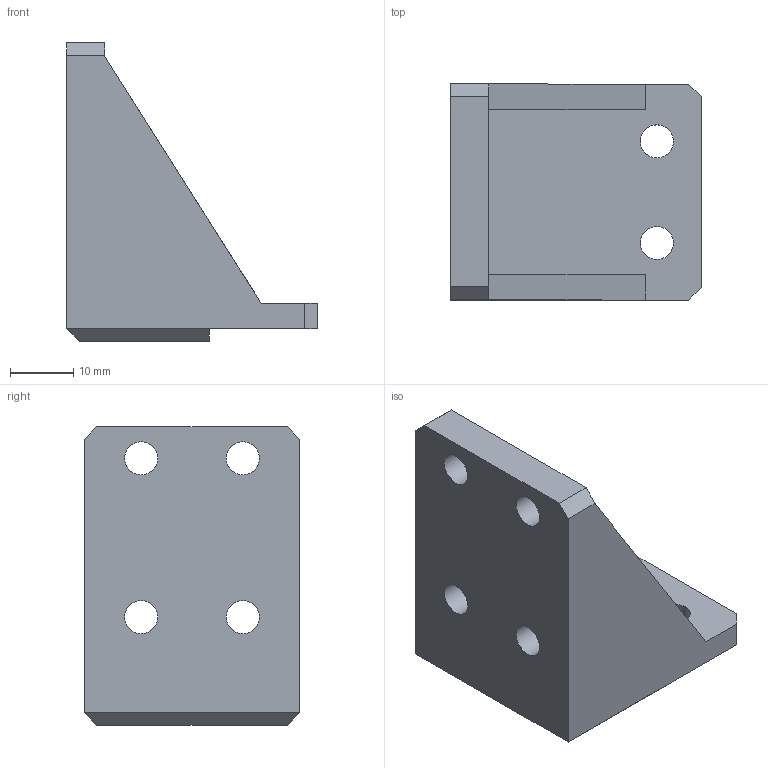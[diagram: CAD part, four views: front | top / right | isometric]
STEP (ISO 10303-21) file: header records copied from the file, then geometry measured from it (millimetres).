
FILE_DESCRIPTION(('FreeCAD Model'),'2;1');
FILE_NAME('Open CASCADE Shape Model','2026-05-05T23:17:01',(''),(''), 'Open CASCADE STEP processor 7.8','FreeCAD','Unknown');
FILE_SCHEMA(('AUTOMOTIVE_DESIGN { 1 0 10303 214 1 1 1 1 }'));
Length unit declared in the file: millimetre
Products named in the file (1): Body
Bounding box: 39.49 x 34 x 47.05 mm (x, y, z)
Volume: 16865.3 mm3; surface area: 9456.5 mm2
Topology: 1 solids, 2 shells, 27 faces, 349 edges, 325 vertices
Faces by surface type: plane 21, cylinder 6
Full cylindrical faces by diameter (mm): 5.2 x6
Entity records: 3652 total; most frequent: CARTESIAN_POINT 708, ORIENTED_EDGE 694, DIRECTION 687, EDGE_CURVE 349, VERTEX_POINT 325, AXIS2_PLACEMENT_3D 316, CIRCLE 288, LINE 55
